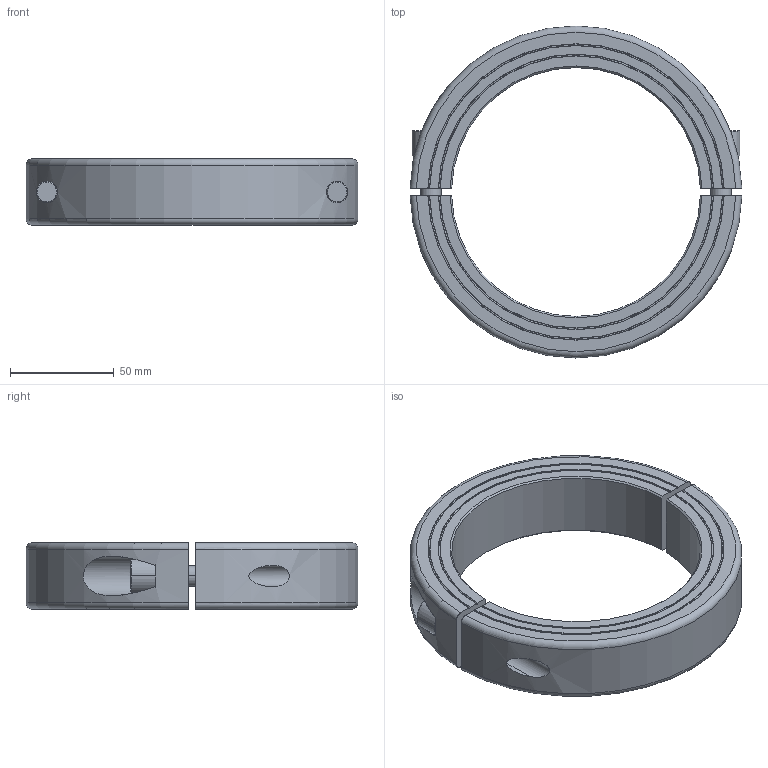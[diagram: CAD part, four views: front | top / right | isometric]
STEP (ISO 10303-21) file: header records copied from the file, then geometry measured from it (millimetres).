
FILE_DESCRIPTION((''),'2;1');
FILE_NAME('MSPH-120-F','2016-09-09T',('SYSTEM'),(''),'PRO/ENGINEER BY PARAMETRIC TECHNOLOGY CORPORATION, 2015110','PRO/ENGINEER BY PARAMETRIC TECHNOLOGY CORPORATION, 2015110','');
FILE_SCHEMA(('AUTOMOTIVE_DESIGN { 1 0 10303 214 1 1 1 1 }'));
Length unit declared in the file: millimetre
Products named in the file (1): MSPH-120-F
Bounding box: 159.97 x 160 x 32 mm (x, y, z)
Volume: 142658.3 mm3; surface area: 55735.1 mm2
Topology: 3 solids, 4 shells, 88 faces, 222 edges, 144 vertices
Faces by surface type: plane 34, cylinder 26, cone 20, torus 8
Entity records: 3515 total; most frequent: CARTESIAN_POINT 764, ORIENTED_EDGE 432, DIRECTION 416, EDGE_CURVE 222, AXIS2_PLACEMENT_3D 163, VERTEX_POINT 144, EDGE_LOOP 102, VECTOR 90
